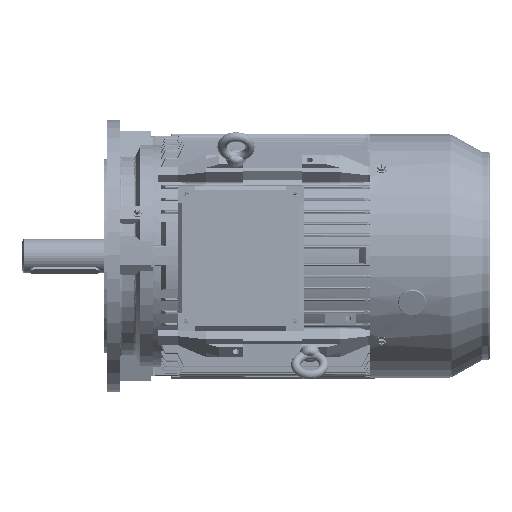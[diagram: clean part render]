
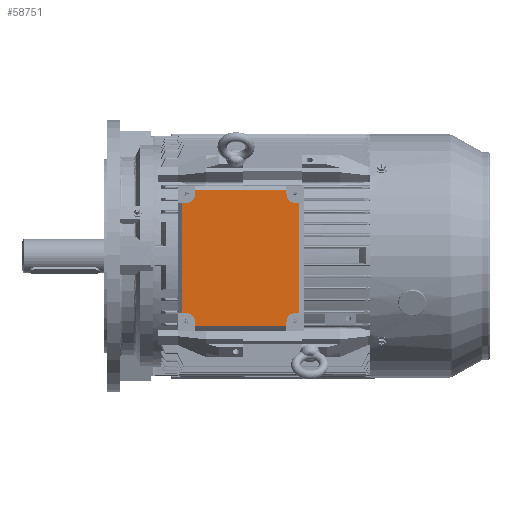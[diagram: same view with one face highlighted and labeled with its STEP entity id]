
A CAD part, top view. The second image highlights one B-rep face of the part: STEP entity #58751.
In plain terms, the highlighted planar face has unit normal (0, 0, 1).
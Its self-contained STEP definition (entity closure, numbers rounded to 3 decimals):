
#1377 = CARTESIAN_POINT ( 'NONE',  ( 116.157, -51.136, 241.65 ) ) ;
#1709 = EDGE_CURVE ( 'NONE', #168642, #193322, #182846, .T. ) ;
#1842 = CARTESIAN_POINT ( 'NONE',  ( 122.157, -51.136, 241.65 ) ) ;
#3134 = CARTESIAN_POINT ( 'NONE',  ( -17.843, 106.864, 241.65 ) ) ;
#7219 = LINE ( 'NONE', #49655, #25799 ) ;
#7577 = CARTESIAN_POINT ( 'NONE',  ( 100.157, 106.864, 241.65 ) ) ;
#12605 = DIRECTION ( 'NONE',  ( 0., 1., 0. ) ) ;
#13503 = VERTEX_POINT ( 'NONE', #7577 ) ;
#15359 = VECTOR ( 'NONE', #35869, 1000. ) ;
#19195 = DIRECTION ( 'NONE',  ( 0., -1., 0. ) ) ;
#20490 = EDGE_CURVE ( 'NONE', #170896, #162498, #256652, .T. ) ;
#20986 = LINE ( 'NONE', #3134, #161465 ) ;
#23727 = DIRECTION ( 'NONE',  ( -1., 0., 0. ) ) ;
#25170 = DIRECTION ( 'NONE',  ( 0., 1., 0. ) ) ;
#25799 = VECTOR ( 'NONE', #50986, 1000. ) ;
#29770 = EDGE_CURVE ( 'NONE', #217460, #52552, #33174, .T. ) ;
#30774 = EDGE_CURVE ( 'NONE', #103582, #55309, #230703, .T. ) ;
#33174 = LINE ( 'NONE', #223569, #15359 ) ;
#35869 = DIRECTION ( 'NONE',  ( 1., 0., 0. ) ) ;
#37869 = DIRECTION ( 'NONE',  ( 0., 0., 1. ) ) ;
#38949 = LINE ( 'NONE', #104683, #187863 ) ;
#42993 = DIRECTION ( 'NONE',  ( 0., 0., 1. ) ) ;
#44253 = LINE ( 'NONE', #1842, #207208 ) ;
#48312 = DIRECTION ( 'NONE',  ( 0., 0., 1. ) ) ;
#48328 = ORIENTED_EDGE ( 'NONE', *, *, #137057, .F. ) ;
#49655 = CARTESIAN_POINT ( 'NONE',  ( 100.157, 112.864, 241.65 ) ) ;
#50986 = DIRECTION ( 'NONE',  ( 0., -1., 0. ) ) ;
#52552 = VERTEX_POINT ( 'NONE', #257701 ) ;
#52933 = EDGE_CURVE ( 'NONE', #217460, #69318, #92853, .T. ) ;
#54176 = VERTEX_POINT ( 'NONE', #62575 ) ;
#55309 = VERTEX_POINT ( 'NONE', #255384 ) ;
#57611 = DIRECTION ( 'NONE',  ( 0., 0., 1. ) ) ;
#58291 = DIRECTION ( 'NONE',  ( 0., -1., 0. ) ) ;
#58751 = ADVANCED_FACE ( 'NONE', ( #250196 ), #100899, .T. ) ;
#60318 = LINE ( 'NONE', #101446, #222376 ) ;
#62575 = CARTESIAN_POINT ( 'NONE',  ( 100.157, -68.136, 241.65 ) ) ;
#63424 = EDGE_CURVE ( 'NONE', #132768, #193322, #38949, .T. ) ;
#67607 = CARTESIAN_POINT ( 'NONE',  ( 111.157, -62.136, 241.65 ) ) ;
#69267 = EDGE_CURVE ( 'NONE', #168642, #170896, #44253, .T. ) ;
#69318 = VERTEX_POINT ( 'NONE', #144405 ) ;
#74527 = CIRCLE ( 'NONE', #262746, 11. ) ;
#75080 = CARTESIAN_POINT ( 'NONE',  ( 100.157, -62.136, 241.65 ) ) ;
#75380 = DIRECTION ( 'NONE',  ( 1., 0., 0. ) ) ;
#77170 = DIRECTION ( 'NONE',  ( -1., 0., 0. ) ) ;
#78527 = CARTESIAN_POINT ( 'NONE',  ( -39.843, -51.136, 241.65 ) ) ;
#78853 = ORIENTED_EDGE ( 'NONE', *, *, #145769, .T. ) ;
#83096 = EDGE_CURVE ( 'NONE', #162498, #54176, #270627, .T. ) ;
#83405 = EDGE_CURVE ( 'NONE', #214206, #69318, #97716, .T. ) ;
#85434 = CARTESIAN_POINT ( 'NONE',  ( -17.843, -74.136, 241.65 ) ) ;
#86844 = ORIENTED_EDGE ( 'NONE', *, *, #29770, .F. ) ;
#91552 = ORIENTED_EDGE ( 'NONE', *, *, #20490, .F. ) ;
#92251 = VERTEX_POINT ( 'NONE', #105046 ) ;
#92853 = LINE ( 'NONE', #175119, #206164 ) ;
#97716 = LINE ( 'NONE', #78527, #258826 ) ;
#98744 = DIRECTION ( 'NONE',  ( 0., 1., 0. ) ) ;
#100604 = CARTESIAN_POINT ( 'NONE',  ( 116.157, 90.864, 241.65 ) ) ;
#100684 = CIRCLE ( 'NONE', #183795, 11. ) ;
#100899 = PLANE ( 'NONE',  #220923 ) ;
#101446 = CARTESIAN_POINT ( 'NONE',  ( -17.843, 112.864, 241.65 ) ) ;
#103582 = VERTEX_POINT ( 'NONE', #231757 ) ;
#104683 = CARTESIAN_POINT ( 'NONE',  ( 122.157, 90.864, 241.65 ) ) ;
#105046 = CARTESIAN_POINT ( 'NONE',  ( -17.843, 101.864, 241.65 ) ) ;
#105450 = VECTOR ( 'NONE', #58291, 1000. ) ;
#107911 = ORIENTED_EDGE ( 'NONE', *, *, #238069, .F. ) ;
#115185 = CARTESIAN_POINT ( 'NONE',  ( 100.157, -68.136, 241.65 ) ) ;
#117043 = ORIENTED_EDGE ( 'NONE', *, *, #135732, .T. ) ;
#119304 = CARTESIAN_POINT ( 'NONE',  ( -28.843, -62.136, 241.65 ) ) ;
#124642 = VECTOR ( 'NONE', #75380, 1000. ) ;
#127922 = DIRECTION ( 'NONE',  ( 0., 1., 0. ) ) ;
#129385 = CARTESIAN_POINT ( 'NONE',  ( 100.157, 101.864, 241.65 ) ) ;
#130543 = CARTESIAN_POINT ( 'NONE',  ( 111.157, -51.136, 241.65 ) ) ;
#131924 = DIRECTION ( 'NONE',  ( 0., -1., 0. ) ) ;
#132768 = VERTEX_POINT ( 'NONE', #188361 ) ;
#135732 = EDGE_CURVE ( 'NONE', #13503, #235972, #20986, .T. ) ;
#137057 = EDGE_CURVE ( 'NONE', #52552, #92251, #74527, .T. ) ;
#144405 = CARTESIAN_POINT ( 'NONE',  ( -33.843, -51.136, 241.65 ) ) ;
#145769 = EDGE_CURVE ( 'NONE', #103582, #54176, #178209, .T. ) ;
#149748 = DIRECTION ( 'NONE',  ( -1., 0., 0. ) ) ;
#151684 = AXIS2_PLACEMENT_3D ( 'NONE', #236044, #48312, #131924 ) ;
#160891 = VECTOR ( 'NONE', #184182, 1000. ) ;
#161465 = VECTOR ( 'NONE', #149748, 1000. ) ;
#162313 = ORIENTED_EDGE ( 'NONE', *, *, #63424, .F. ) ;
#162498 = VERTEX_POINT ( 'NONE', #75080 ) ;
#168642 = VERTEX_POINT ( 'NONE', #1377 ) ;
#168902 = VECTOR ( 'NONE', #127922, 1000. ) ;
#170896 = VERTEX_POINT ( 'NONE', #130543 ) ;
#172201 = ORIENTED_EDGE ( 'NONE', *, *, #1709, .T. ) ;
#175119 = CARTESIAN_POINT ( 'NONE',  ( -33.843, -51.136, 241.65 ) ) ;
#176230 = ORIENTED_EDGE ( 'NONE', *, *, #69267, .F. ) ;
#176251 = EDGE_CURVE ( 'NONE', #92251, #235972, #60318, .T. ) ;
#176454 = DIRECTION ( 'NONE',  ( 0., -1., 0. ) ) ;
#178209 = LINE ( 'NONE', #115185, #124642 ) ;
#182846 = LINE ( 'NONE', #100604, #160891 ) ;
#183795 = AXIS2_PLACEMENT_3D ( 'NONE', #119304, #57611, #19195 ) ;
#184182 = DIRECTION ( 'NONE',  ( 0., 1., 0. ) ) ;
#187863 = VECTOR ( 'NONE', #208822, 1000. ) ;
#188361 = CARTESIAN_POINT ( 'NONE',  ( 111.157, 90.864, 241.65 ) ) ;
#191198 = CARTESIAN_POINT ( 'NONE',  ( -28.843, 101.864, 241.65 ) ) ;
#193322 = VERTEX_POINT ( 'NONE', #194123 ) ;
#194123 = CARTESIAN_POINT ( 'NONE',  ( 116.157, 90.864, 241.65 ) ) ;
#198645 = ORIENTED_EDGE ( 'NONE', *, *, #83096, .F. ) ;
#199077 = ORIENTED_EDGE ( 'NONE', *, *, #30774, .F. ) ;
#202693 = CARTESIAN_POINT ( 'NONE',  ( -33.843, 90.864, 241.65 ) ) ;
#206164 = VECTOR ( 'NONE', #176454, 1000. ) ;
#207208 = VECTOR ( 'NONE', #23727, 1000. ) ;
#208471 = EDGE_CURVE ( 'NONE', #13503, #234431, #7219, .T. ) ;
#208822 = DIRECTION ( 'NONE',  ( 1., 0., 0. ) ) ;
#211354 = EDGE_CURVE ( 'NONE', #55309, #214206, #100684, .T. ) ;
#214206 = VERTEX_POINT ( 'NONE', #225533 ) ;
#216499 = ORIENTED_EDGE ( 'NONE', *, *, #208471, .F. ) ;
#217460 = VERTEX_POINT ( 'NONE', #202693 ) ;
#220923 = AXIS2_PLACEMENT_3D ( 'NONE', #228262, #37869, #246163 ) ;
#222376 = VECTOR ( 'NONE', #98744, 1000. ) ;
#223569 = CARTESIAN_POINT ( 'NONE',  ( -39.843, 90.864, 241.65 ) ) ;
#225533 = CARTESIAN_POINT ( 'NONE',  ( -28.843, -51.136, 241.65 ) ) ;
#228262 = CARTESIAN_POINT ( 'NONE',  ( -39.843, 112.864, 241.65 ) ) ;
#230406 = AXIS2_PLACEMENT_3D ( 'NONE', #67607, #42993, #25170 ) ;
#230703 = LINE ( 'NONE', #85434, #168902 ) ;
#231757 = CARTESIAN_POINT ( 'NONE',  ( -17.843, -68.136, 241.65 ) ) ;
#232987 = ORIENTED_EDGE ( 'NONE', *, *, #52933, .T. ) ;
#234431 = VERTEX_POINT ( 'NONE', #129385 ) ;
#235972 = VERTEX_POINT ( 'NONE', #260546 ) ;
#236044 = CARTESIAN_POINT ( 'NONE',  ( 111.157, 101.864, 241.65 ) ) ;
#236125 = ORIENTED_EDGE ( 'NONE', *, *, #211354, .F. ) ;
#238069 = EDGE_CURVE ( 'NONE', #234431, #132768, #248103, .T. ) ;
#246163 = DIRECTION ( 'NONE',  ( 0., -1., 0. ) ) ;
#247380 = CARTESIAN_POINT ( 'NONE',  ( 100.157, -74.136, 241.65 ) ) ;
#248103 = CIRCLE ( 'NONE', #151684, 11. ) ;
#250196 = FACE_OUTER_BOUND ( 'NONE', #258574, .T. ) ;
#254977 = ORIENTED_EDGE ( 'NONE', *, *, #176251, .F. ) ;
#255384 = CARTESIAN_POINT ( 'NONE',  ( -17.843, -62.136, 241.65 ) ) ;
#256652 = CIRCLE ( 'NONE', #230406, 11. ) ;
#257701 = CARTESIAN_POINT ( 'NONE',  ( -28.843, 90.864, 241.65 ) ) ;
#258574 = EDGE_LOOP ( 'NONE', ( #176230, #172201, #162313, #107911, #216499, #117043, #254977, #48328, #86844, #232987, #262651, #236125, #199077, #78853, #198645, #91552 ) ) ;
#258826 = VECTOR ( 'NONE', #77170, 1000. ) ;
#260546 = CARTESIAN_POINT ( 'NONE',  ( -17.843, 106.864, 241.65 ) ) ;
#262651 = ORIENTED_EDGE ( 'NONE', *, *, #83405, .F. ) ;
#262746 = AXIS2_PLACEMENT_3D ( 'NONE', #191198, #263354, #12605 ) ;
#263354 = DIRECTION ( 'NONE',  ( 0., 0., 1. ) ) ;
#270627 = LINE ( 'NONE', #247380, #105450 ) ;
